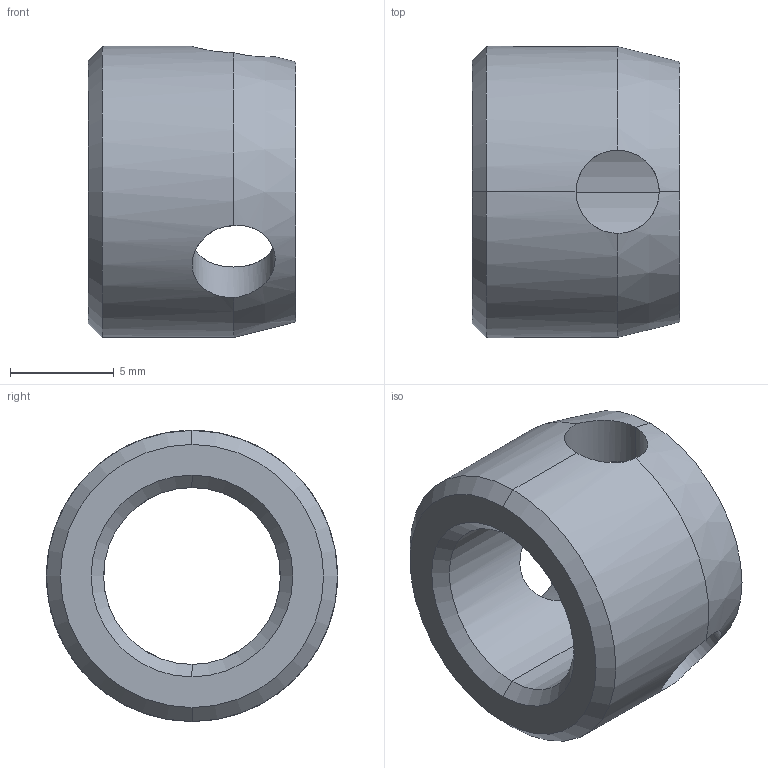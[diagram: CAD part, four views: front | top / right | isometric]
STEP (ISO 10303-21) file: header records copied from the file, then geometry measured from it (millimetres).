
FILE_DESCRIPTION (( 'STEP AP203' ), '1' );
FILE_NAME ('FSUK-SCRS-M10-10.STEP', '2021-08-05T12:57:59', ( '' ), ( '' ), 'SwSTEP 2.0', 'SolidWorks 2021', '' );
FILE_SCHEMA (( 'CONFIG_CONTROL_DESIGN' ));
Length unit declared in the file: millimetre
Products named in the file (1): FSUK-SCRS-M10-10
Bounding box: 10 x 14 x 14 mm (x, y, z)
Volume: 803 mm3; surface area: 854.8 mm2
Topology: 1 solids, 1 shells, 20 faces, 55 edges, 33 vertices
Faces by surface type: cylinder 10, cone 8, plane 2
Entity records: 1016 total; most frequent: CARTESIAN_POINT 439, ORIENTED_EDGE 110, DIRECTION 97, EDGE_CURVE 55, AXIS2_PLACEMENT_3D 39, VERTEX_POINT 33, EDGE_LOOP 24, FACE_OUTER_BOUND 20
